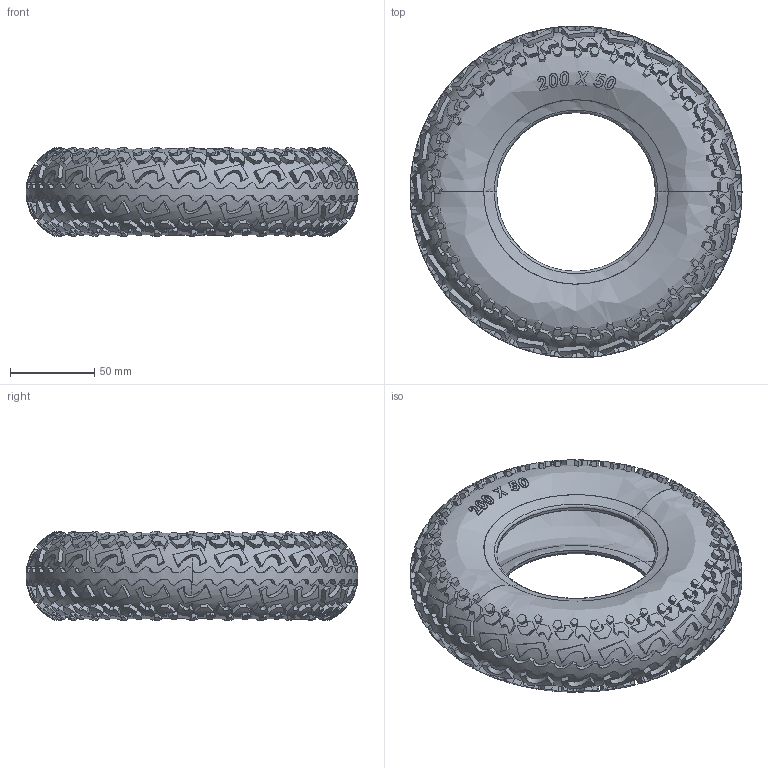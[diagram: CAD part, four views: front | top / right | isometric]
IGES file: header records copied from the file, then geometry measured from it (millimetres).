
Start section: SolidWorks IGES FILE using analytic representation for surfaces
Global section: file name: E:\SW Course Development\EDU Course\Mountainboard files\Wheel\Tire.IGS; native system: SolidWorks 2004 by SolidWorks Corporation; preprocessor: Version 5.3; author: Jim; date: 040304.171600; units: inch
Bounding box: 196.51 x 196.47 x 52.8 mm (x, y, z)
Surface area: 146124.9 mm2 (no closed solid volume)
Topology: 0 solids, 0 shells, 2150 faces, 18396 edges, 18394 vertices
Faces by surface type: bspline 2146, revolution 4
